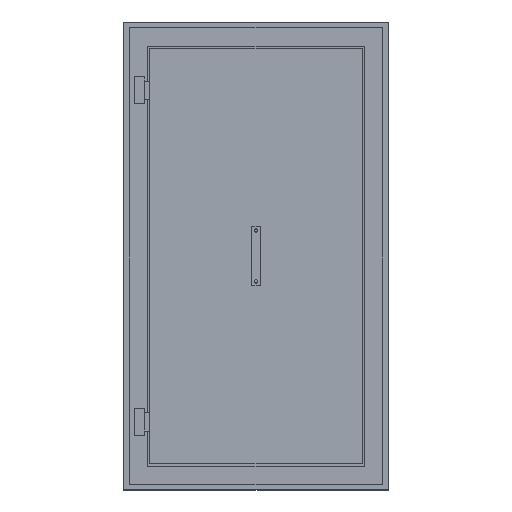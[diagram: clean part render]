
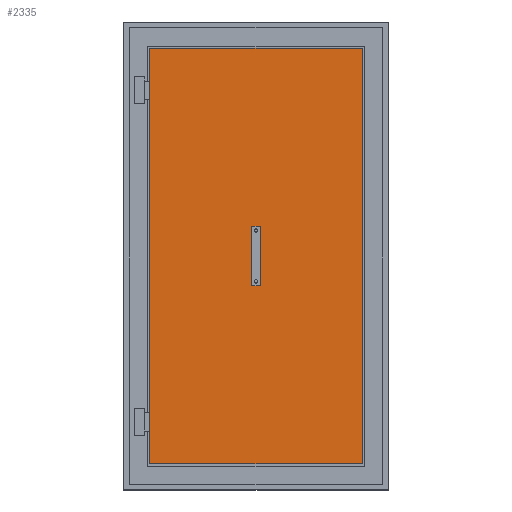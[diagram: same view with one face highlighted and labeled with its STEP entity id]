
A CAD part, top view. The second image highlights one B-rep face of the part: STEP entity #2335.
In plain terms, the highlighted planar face has unit normal (0, 0, 1).
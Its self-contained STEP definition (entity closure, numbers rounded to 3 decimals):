
#709=DIRECTION('',(0.,-1.,0.));
#710=VECTOR('',#709,2042.);
#711=CARTESIAN_POINT('',(-521.,1021.,-41.));
#712=LINE('',#711,#710);
#713=DIRECTION('',(-1.,0.,0.));
#714=VECTOR('',#713,1042.);
#715=CARTESIAN_POINT('',(521.,1021.,-41.));
#716=LINE('',#715,#714);
#717=DIRECTION('',(0.,1.,0.));
#718=VECTOR('',#717,2042.);
#719=CARTESIAN_POINT('',(521.,-1021.,-41.));
#720=LINE('',#719,#718);
#721=DIRECTION('',(1.,0.,0.));
#722=VECTOR('',#721,1042.);
#723=CARTESIAN_POINT('',(-521.,-1021.,-41.));
#724=LINE('',#723,#722);
#725=CARTESIAN_POINT('',(0.,0.,-41.));
#726=DIRECTION('',(0.,0.,1.));
#727=DIRECTION('',(1.,0.,0.));
#728=AXIS2_PLACEMENT_3D('',#725,#726,#727);
#730=CARTESIAN_POINT('',(0.,0.,-41.));
#731=DIRECTION('',(0.,0.,1.));
#732=DIRECTION('',(-1.,0.,0.));
#733=AXIS2_PLACEMENT_3D('',#730,#731,#732);
#1079=CARTESIAN_POINT('',(-521.,1021.,-41.));
#1080=CARTESIAN_POINT('',(-521.,-1021.,-41.));
#1081=VERTEX_POINT('',#1079);
#1082=VERTEX_POINT('',#1080);
#1083=CARTESIAN_POINT('',(521.,-1021.,-41.));
#1084=VERTEX_POINT('',#1083);
#1085=CARTESIAN_POINT('',(521.,1021.,-41.));
#1086=VERTEX_POINT('',#1085);
#1307=CARTESIAN_POINT('',(20.,0.,-41.));
#1308=CARTESIAN_POINT('',(-20.,0.,-41.));
#1309=VERTEX_POINT('',#1307);
#1310=VERTEX_POINT('',#1308);
#2316=CARTESIAN_POINT('',(0.,0.,-41.));
#2317=DIRECTION('',(0.,0.,1.));
#2318=DIRECTION('',(1.,0.,0.));
#2319=AXIS2_PLACEMENT_3D('',#2316,#2317,#2318);
#2320=PLANE('',#2319);
#2322=ORIENTED_EDGE('',*,*,#2321,.F.);
#2324=ORIENTED_EDGE('',*,*,#2323,.F.);
#2326=ORIENTED_EDGE('',*,*,#2325,.F.);
#2328=ORIENTED_EDGE('',*,*,#2327,.F.);
#2329=EDGE_LOOP('',(#2322,#2324,#2326,#2328));
#2330=FACE_OUTER_BOUND('',#2329,.F.);
#2331=ORIENTED_EDGE('',*,*,#1891,.T.);
#2332=ORIENTED_EDGE('',*,*,#2298,.T.);
#2333=EDGE_LOOP('',(#2331,#2332));
#2334=FACE_BOUND('',#2333,.F.);
#729=CIRCLE('',#728,20.);
#734=CIRCLE('',#733,20.);
#1891=EDGE_CURVE('',#1309,#1310,#729,.T.);
#2298=EDGE_CURVE('',#1310,#1309,#734,.T.);
#2321=EDGE_CURVE('',#1081,#1082,#712,.T.);
#2323=EDGE_CURVE('',#1086,#1081,#716,.T.);
#2325=EDGE_CURVE('',#1084,#1086,#720,.T.);
#2327=EDGE_CURVE('',#1082,#1084,#724,.T.);
#2335=ADVANCED_FACE('',(#2330,#2334),#2320,.T.);
